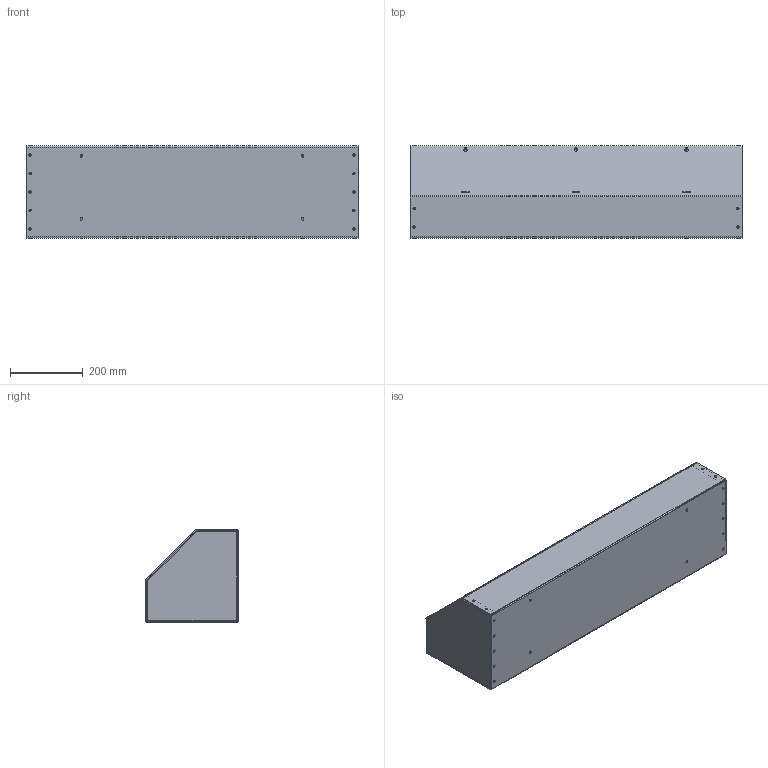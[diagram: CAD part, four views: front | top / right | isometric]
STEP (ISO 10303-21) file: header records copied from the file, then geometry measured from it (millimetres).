
FILE_DESCRIPTION (( 'STEP AP203' ), '1' );
FILE_NAME ('at101036.STEP', '2017-10-03T15:36:13', ( '' ), ( '' ), 'SwSTEP 2.0', 'SolidWorks 2014', '' );
FILE_SCHEMA (( 'CONFIG_CONTROL_DESIGN' ));
Length unit declared in the file: inch
Products named in the file (7): 89159158; 89159137; 87780048; at101036; 89159114; 89159123; 16111002_INSTALLED .144 THICKNESS
Assembly tree (34 placements, depth 3):
  at101036
    89159158
      89159114
      89159123  x2
      16111002_INSTALLED .144 THICKNESS  x28
    89159137
    87780048
Bounding box: 914.4 x 255.83 x 255.83 mm (x, y, z)
Volume: 1847621.6 mm3; surface area: 2047788.6 mm2
Topology: 33 solids, 33 shells, 1107 faces, 2540 edges, 1524 vertices
Faces by surface type: cylinder 446, plane 353, cone 168, bspline 128, torus 12
Entity records: 15853 total; most frequent: CARTESIAN_POINT 2889, DIRECTION 2456, ORIENTED_EDGE 2330, EDGE_CURVE 1165, AXIS2_PLACEMENT_3D 862, VERTEX_POINT 739, LINE 732, VECTOR 732
